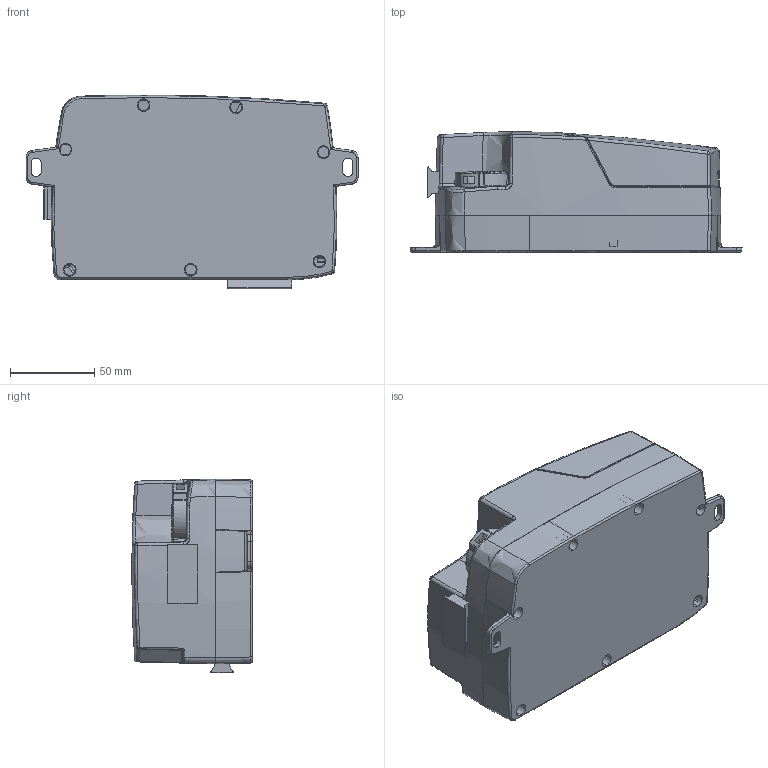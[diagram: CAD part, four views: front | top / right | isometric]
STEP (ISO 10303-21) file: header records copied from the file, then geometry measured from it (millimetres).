
FILE_DESCRIPTION (( 'STEP AP203' ), '1' );
FILE_NAME ('3D_TC26.STEP', '2019-06-27T07:51:27', ( '' ), ( '' ), 'SwSTEP 2.0', 'SolidWorks 2015', '' );
FILE_SCHEMA (( 'CONFIG_CONTROL_DESIGN' ));
Length unit declared in the file: millimetre
Products named in the file (1): 3D_TC26
Bounding box: 197.5 x 71.7 x 115.35 mm (x, y, z)
Surface area: 110254 mm2 (no closed solid volume)
Topology: 0 solids, 7 shells, 462 faces, 1822 edges, 1351 vertices
Faces by surface type: bspline 207, cylinder 115, plane 108, cone 32
Entity records: 29654 total; most frequent: CARTESIAN_POINT 16695, ORIENTED_EDGE 2822, DIRECTION 2014, EDGE_CURVE 1815, VERTEX_POINT 1351, B_SPLINE_CURVE_WITH_KNOTS 690, VECTOR 688, LINE 688
